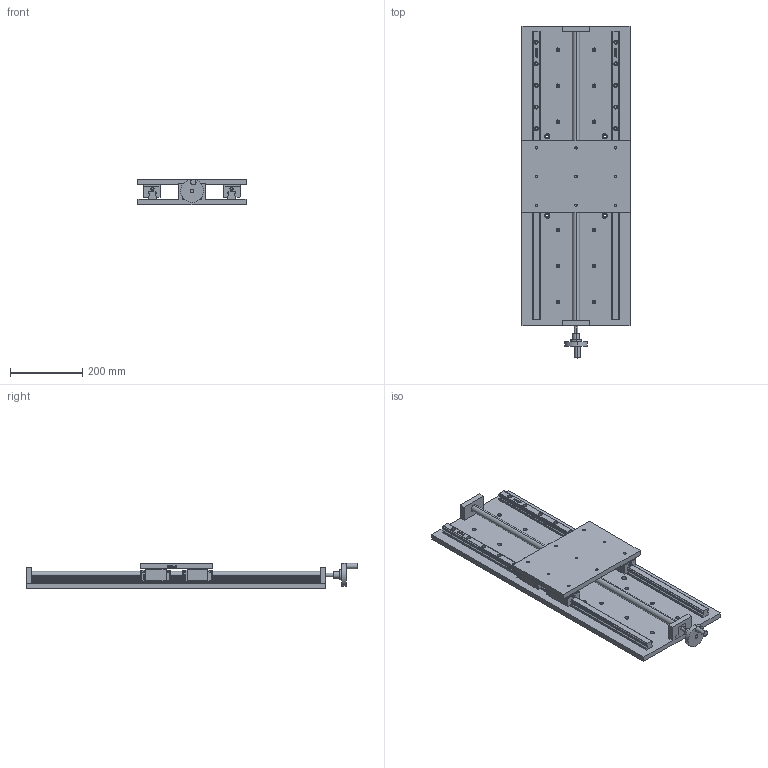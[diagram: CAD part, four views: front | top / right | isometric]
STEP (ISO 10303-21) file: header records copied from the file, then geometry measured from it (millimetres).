
FILE_DESCRIPTION (( 'STEP AP214' ), '1' );
FILE_NAME ('PT300-600.STEP', '2022-09-18T06:10:15', ( '' ), ( '' ), 'SwSTEP 2.0', 'SolidWorks 2017', '' );
FILE_SCHEMA (( 'AUTOMOTIVE_DESIGN' ));
Length unit declared in the file: millimetre
Products named in the file (12): 標踡輸; 34320001; 菁啣-600; PT300-600; M6H; HGH25C__X2_53F35C01_X0__temp; HGH25C__X2_5DE65C01_X0__temp; 醱啣; HGH25CA2R300Z0C_GW202204023669; 忒謫; 標踡; HGR25_temp-600
Assembly tree (12 placements, depth 3):
  PT300-600
    菁啣-600
    醱啣
    HGH25CA2R300Z0C_GW202204023669  x2
      HGR25_temp-600
      HGH25C__X2_53F35C01_X0__temp
      M6H
      HGH25C__X2_5DE65C01_X0__temp
      34320001
    標踡
      標踡輸
      忒謫
Bounding box: 300 x 922.1 x 70.06 mm (x, y, z)
Volume: 6130149 mm3; surface area: 1034645.8 mm2
Topology: 31 solids, 33 shells, 3049 faces, 8542 edges, 5638 vertices
Faces by surface type: plane 1993, cylinder 790, bspline 202, cone 56, torus 8
Entity records: 74197 total; most frequent: CARTESIAN_POINT 14906, ORIENTED_EDGE 9424, DIRECTION 8520, EDGE_CURVE 4712, VECTOR 3414, LINE 3414, VERTEX_POINT 3127, AXIS2_PLACEMENT_3D 2553
